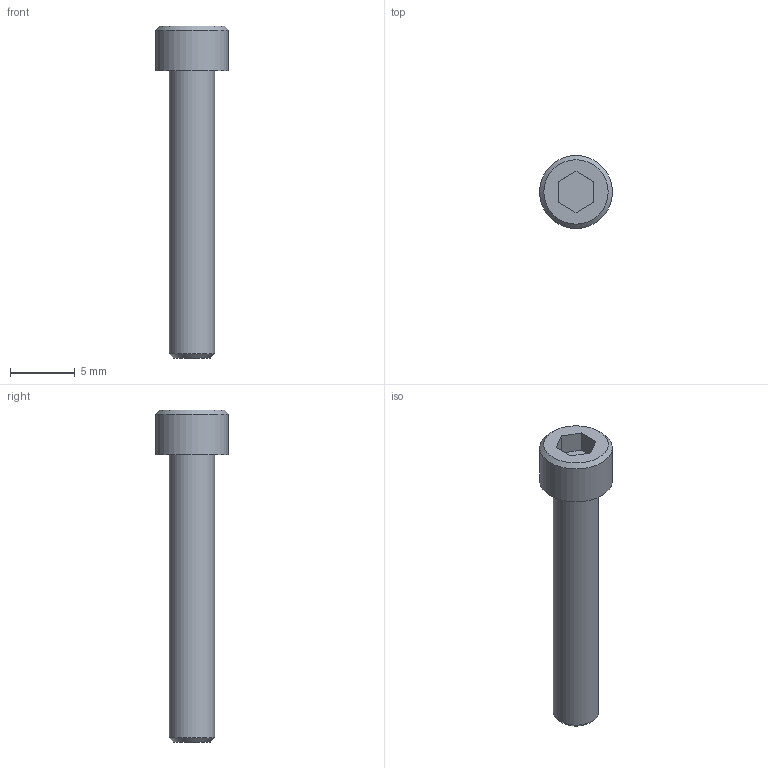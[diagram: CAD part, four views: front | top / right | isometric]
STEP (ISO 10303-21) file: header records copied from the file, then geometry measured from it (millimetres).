
FILE_DESCRIPTION((''),'2;1');
FILE_NAME('C:\Users\Stan\Desktop\import\SHCS 6-32 UNCx0.875.ipt.step','2011-08-18T17:44:44',(''),(''),'Autodesk Inventor 2012','Autodesk Inventor 2012','');
FILE_SCHEMA(('AUTOMOTIVE_DESIGN { 1 0 10303 214 1 1 1 1 }'));
Length unit declared in the file: inch
Products named in the file (1): SHCS 6-32 UNCx0.875
Bounding box: 5.64 x 5.64 x 25.68 mm (x, y, z)
Volume: 288.4 mm3; surface area: 365.6 mm2
Topology: 1 solids, 1 shells, 14 faces, 28 edges, 18 vertices
Faces by surface type: plane 10, cone 2, cylinder 2
Full cylindrical faces by diameter (mm): 3.505 x1, 5.639 x1
Entity records: 391 total; most frequent: DIRECTION 60, CARTESIAN_POINT 57, ORIENTED_EDGE 48, EDGE_CURVE 24, AXIS2_PLACEMENT_3D 21, EDGE_LOOP 20, VERTEX_POINT 18, VECTOR 18
